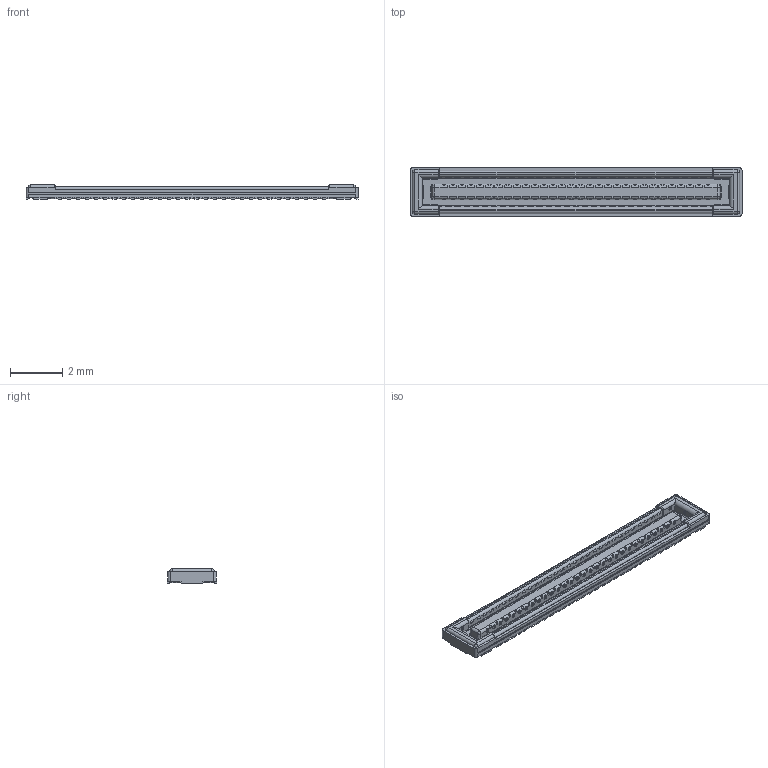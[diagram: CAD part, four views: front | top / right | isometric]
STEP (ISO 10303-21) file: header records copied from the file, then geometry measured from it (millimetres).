
FILE_DESCRIPTION(('CATIA V5 STEP Exchange'),'2;1');
FILE_NAME('H:\华灿---系列图\BtoB--板对板----(HCTL)\锦善-提供--替代BK13C-BTB\3d\HC-PBB13C-60DP-0.35V-0.6-05.stp','2026-01-05T06:40:49+00:00',('none'),('none'),'CATIA Version 5 Release 20 GA (IN-10)','CATIA V5 STEP AP203','none');
FILE_SCHEMA(('CONFIG_CONTROL_DESIGN'));
Products named in the file (1): B09R-16_230630
Bounding box: 12.75 x 1.9 x 0.55 mm (x, y, z)
Volume: 8.1 mm3; surface area: 81.9 mm2
Topology: 1 solids, 1 shells, 1727 faces, 5037 edges, 3307 vertices
Faces by surface type: plane 1093, cylinder 470, cone 136, bspline 12, sphere 8, torus 8
Entity records: 56819 total; most frequent: CARTESIAN_POINT 15036, ORIENTED_EDGE 10058, DIRECTION 6572, EDGE_CURVE 5029, VECTOR 3383, LINE 3383, VERTEX_POINT 3307, AXIS2_PLACEMENT_3D 2107
